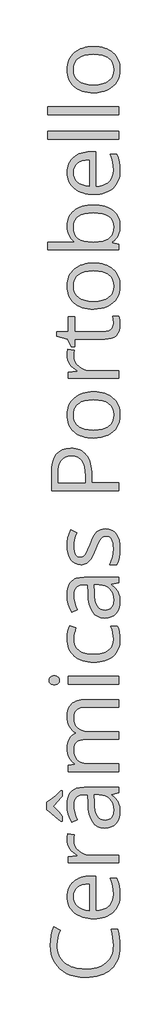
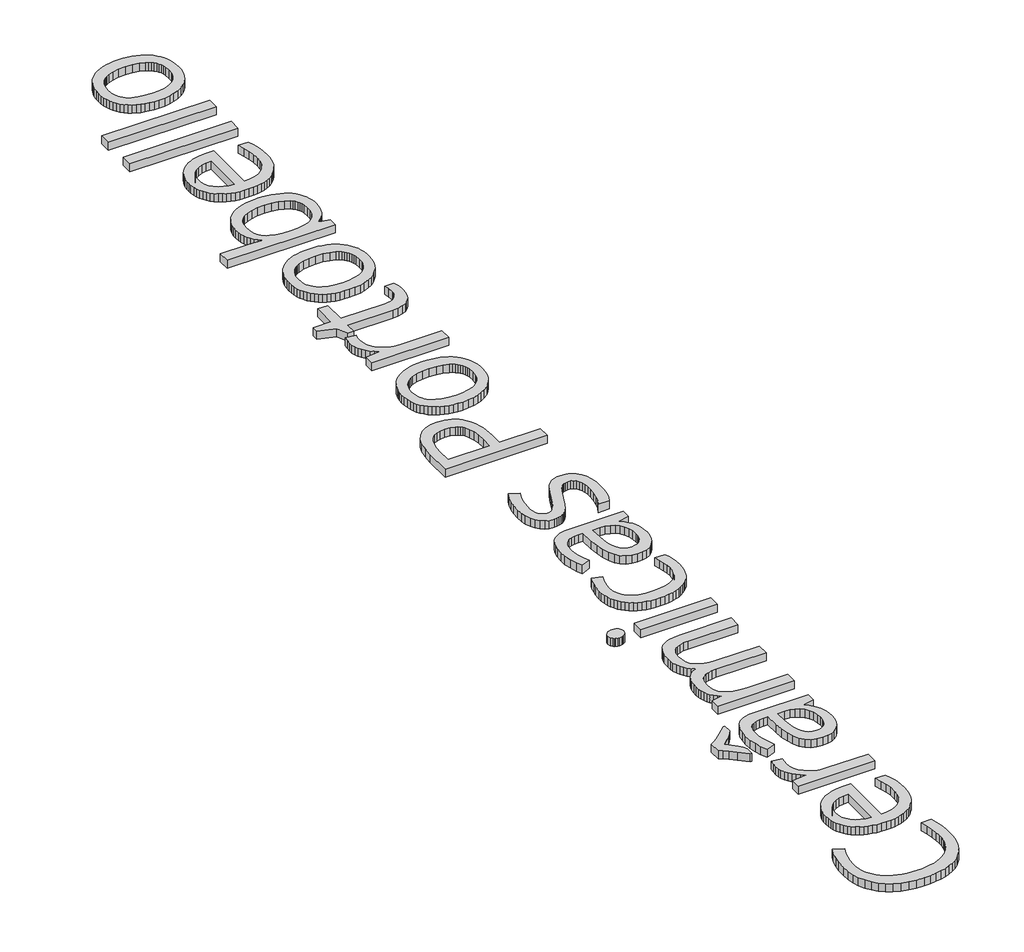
# One storey, part 5 of 9: 1 proxy.
"""IFC4 building model written with IfcOpenShell, lengths in millimetres."""

from ifc_helpers import new_model, si_unit, origin, origin_with_axes, place, context, project, spatial, polyline, outline, extrude, element, save

model = new_model("IFC4")

# Units and contexts
model_context = context("Model", 3, world=origin())
ifc_project = project(units=[si_unit("LENGTHUNIT", "METRE", prefix="MILLI")], contexts=[model_context])

# Site, building, storey
site = spatial("IfcSite", under=ifc_project)
building = spatial("IfcBuilding", under=site)
storey = spatial("IfcBuildingStorey", under=building, Name="PORTOBELLO - SHOWROOM", Elevation=0.0)

# Proxy
placement = place(None, origin())
element("IfcBuildingElementProxy", 1, Name="1200mm OpenSans", ObjectType="1200mm OpenSans", at=placement, inside=storey, context=model_context, shape_type="SweptSolid", body=[
    extrude(outline(polyline([(117527.2490396, -6448.3755491), (117529.3700869, -6496.5596594), (117535.7332288, -6542.1410504), (117546.3384653, -6585.1197219), (117561.1857964, -6625.4956741), (117580.2752221, -6663.2689068), (117603.6067424, -6698.4394202), (117631.1803572, -6731.0072142), (117662.9960667, -6760.9722887), (117698.5017788, -6787.8445215), (117737.1454015, -6811.1337898), (117778.9269348, -6830.8400938), (117823.8463787, -6846.9634334), (117871.9037332, -6859.5038087), (117923.0989983, -6868.4612196), (117977.4321741, -6873.8356661), (118034.9032604, -6875.6271483), (118093.8447143, -6873.9004524), (118149.3440435, -6868.7203648), (118201.4012482, -6860.0868854), (118250.0163283, -6848.0000143), (118295.1892838, -6832.4597514), (118336.9201148, -6813.4660968), (118375.2088212, -6791.0190504), (118410.055403, -6765.1186123), (118441.1105776, -6736.0239276), (118468.0250623, -6703.9941417), (118490.798857, -6669.0292544), (118509.4319617, -6631.1292658), (118523.9243765, -6590.2941759), (118534.2761014, -6546.5239847), (118540.4871363, -6499.8186922), (118542.5574813, -6450.1782984), (118539.7406854, -6385.076512), (118531.2902977, -6315.6030584), (118517.2063183, -6241.7579376), (118497.4887472, -6163.5411496), (118614.3069059, -6163.5411496), (118633.3935148, -6229.5668451), (118647.0268069, -6302.8936754), (118655.2067821, -6383.5216407), (118657.9334405, -6471.4507409), (118655.3955075, -6535.8990307), (118647.7817082, -6596.5615468), (118635.0920428, -6653.4382892), (118617.3265111, -6706.529258), (118594.4851133, -6755.8344531), (118566.5678494, -6801.3538745), (118533.5747192, -6843.0875223), (118495.5057229, -6881.0353964), (118452.7608454, -6914.8369469), (118405.7400717, -6944.1316241), (118354.443402, -6968.9194279), (118298.870836, -6989.2003582), (118239.0223739, -7004.9744151), (118174.8980157, -7016.2415987), (118106.4977613, -7023.0019088), (118033.8216108, -7025.2553455), (117942.9855773, -7020.9174798), (117857.9634104, -7007.9038828), (117778.7551102, -6986.2145546), (117705.3606768, -6955.849495), (117638.9180955, -6917.2931929), (117580.5653521, -6871.0301374), (117530.3024464, -6817.0603283), (117488.1293784, -6755.3837657), (117454.767248, -6686.9581602), (117430.9371549, -6612.7412223), (117416.639099, -6532.7329521), (117411.8730803, -6446.9333496), (117415.8616633, -6355.4438194), (117427.8274122, -6269.9033621), (117447.770327, -6190.3119777), (117475.6904078, -6116.6696662), (117591.426917, -6175.7998453), (117563.3490956, -6243.9437712), (117543.293509, -6312.0876972), (117531.260157, -6380.2316231), (117527.2490396, -6448.3755491)])), origin_with_axes(), (0.0, 0.0, 1.0), 100.0),
    extrude(outline(polyline([(118657.9334405, -5540.5109695), (118656.0067522, -5589.1345), (118650.226687, -5635.1327767), (118640.5932451, -5678.5057997), (118627.1064264, -5719.2535689), (118609.766231, -5757.3760844), (118588.5726588, -5792.8733461), (118563.5257098, -5825.745354), (118534.6253841, -5855.9921082), (118502.3054681, -5883.1178525), (118466.9997486, -5906.6268309), (118428.7082254, -5926.5190434), (118387.4308985, -5942.79449), (118343.167768, -5955.4531707), (118295.9188339, -5964.4950855), (118245.6840962, -5969.9202344), (118192.4635548, -5971.7286173), (118138.7162726, -5970.049807), (118087.8026871, -5965.0133759), (118039.7227982, -5956.6193242), (117994.476606, -5944.8676518), (117952.0641104, -5929.7583587), (117912.4853115, -5911.2914449), (117875.7402092, -5889.4669104), (117841.8288036, -5864.2847552), (117811.3651561, -5836.274537), (117784.9633283, -5805.9658133), (117762.6233202, -5773.3585842), (117744.3451317, -5738.4528496), (117730.1287629, -5701.2486096), (117719.9742138, -5661.7458642), (117713.8814843, -5619.9446133), (117711.8505745, -5575.844857), (117713.6476902, -5534.4999271), (117719.0390376, -5495.3746323), (117728.0246164, -5458.4689727), (117740.6044268, -5423.7829482), (117756.7784688, -5391.3165589), (117776.5467423, -5361.0698047), (117799.9092473, -5333.0426857), (117826.8659839, -5307.2352018), (117856.7690889, -5284.0811397), (117888.9706995, -5264.0142858), (117923.4708154, -5247.0346403), (117960.2694368, -5233.142203), (117999.3665636, -5222.336974), (118040.7621959, -5214.6189533), (118084.4563336, -5209.9881408), (118130.4489767, -5208.4445367), (118219.5047953, -5208.4445367), (118219.5047953, -5830.0325173), (118294.0484815, -5823.5313524), (118359.037596, -5807.9939063), (118414.472139, -5783.4201791), (118438.6064461, -5767.74471), (118460.3521103, -5749.8101706), (118479.6189941, -5729.7799351), (118496.3169601, -5707.8173776), (118522.0061385, -5658.0952968), (118537.4196456, -5600.643928), (118542.5574813, -5535.4632713), (118538.7491732, -5462.8350063), (118527.3242491, -5390.6123599), (118508.282709, -5318.7953321), (118481.6245528, -5247.383923), (118601.3271105, -5247.383923), (118627.3317701, -5317.8714231), (118644.7733702, -5384.3928746), (118654.643423, -5455.6916119), (118657.9334405, -5540.5109695)]), holes=[polyline([(117827.2265337, -5577.2870565), (117831.8235446, -5628.8118868), (117845.6145773, -5674.8608658), (117868.5996316, -5715.4339937), (117900.7787078, -5750.5312704), (117941.0701561, -5779.5668023), (117988.3923269, -5801.954696), (118042.7452202, -5817.6949514), (118104.128836, -5826.7875685), (118104.128836, -5354.827785), (118040.9875395, -5358.4332838), (117985.6882028, -5369.24978), (117938.2308258, -5387.2772736), (117898.6154085, -5412.5157647), (117867.3827758, -5444.4469628), (117845.0737524, -5482.5525775), (117831.6883384, -5526.8326087), (117827.2265337, -5577.2870565)])]), origin_with_axes(), (0.0, 0.0, 1.0), 100.0),
    extrude(outline(polyline([(117711.8505745, -4561.2575151), (117714.1040112, -4503.7498104), (117720.8643213, -4452.3714536), (117839.4852294, -4471.4805968), (117830.2912077, -4524.661703), (117827.2265337, -4570.9923617), (117832.8713927, -4624.3199413), (117849.8059695, -4673.6138692), (117878.0302642, -4718.8741454), (117917.5442769, -4760.1007699), (117965.4861428, -4794.4093438), (118018.9939973, -4818.9154679), (118078.0678405, -4833.6191424), (118142.7076724, -4838.5203673), (118634.8582487, -4838.5203673), (118634.8582487, -4974.8082192), (117734.9257663, -4974.8082192), (117734.9257663, -4862.3166589), (117896.4521093, -4846.8130143), (117896.4521093, -4840.3231166), (117854.6508584, -4813.6198917), (117817.9423745, -4784.3477489), (117786.3266576, -4752.5066883), (117759.8037075, -4718.0967098), (117738.8242118, -4681.5234321), (117723.8388577, -4643.1924737), (117714.8476453, -4603.1038347), (117711.8505745, -4561.2575151)])), origin_with_axes(), (0.0, 0.0, 1.0), 100.0),
    extrude(outline(polyline([(118634.8582487, -3721.8974114), (118503.2575451, -3749.2992017), (118503.2575451, -3756.1496493), (118544.8559867, -3790.1878107), (118579.1532934, -3824.158369), (118606.1494651, -3858.0613243), (118625.8445019, -3891.8966764), (118639.8834125, -3927.8051903), (118649.9112059, -3967.9276308), (118655.9278819, -4012.263998), (118657.9334405, -4060.8142918), (118653.4603687, -4124.924566), (118640.0411531, -4181.6886366), (118617.6757938, -4231.1065035), (118586.3642908, -4273.1781668), (118546.8052095, -4306.7769081), (118499.6971151, -4330.776009), (118445.0400079, -4345.1754695), (118382.8338876, -4349.9752897), (118316.2842682, -4343.0685062), (118258.1512348, -4322.3481557), (118208.4347875, -4287.8142382), (118167.1349263, -4239.4667537), (118134.2516512, -4177.3057022), (118109.7849621, -4101.3310837), (118093.7348592, -4011.5428982), (118086.1013424, -3907.9411457), (118081.0536442, -3753.2652503), (118026.9711632, -3753.2652503), (117979.2771754, -3756.1496493), (117938.2308258, -3764.8028462), (117903.8321145, -3779.2248411), (117876.0810415, -3799.415634), (117854.7071944, -3825.9611184), (117839.4401607, -3859.4471878), (117830.2799405, -3899.8738423), (117827.2265337, -3947.2410818), (117831.5531322, -4006.2360548), (117844.5329276, -4068.9266639), (117866.16592, -4135.3129092), (117896.4521093, -4205.3947907), (117791.1715465, -4247.9396757), (117758.0460269, -4177.3620381), (117732.942742, -4100.4747778), (117717.1236164, -4020.2524311), (117711.8505745, -3939.6695345), (117716.3574479, -3863.4695723), (117729.8780681, -3797.8382283), (117752.4124351, -3742.7755024), (117767.0597737, -3719.2073713), (117783.960549, -3698.2813947), (117803.3457383, -3679.9018016), (117825.4463187, -3663.9728209), (117850.2622905, -3650.4944526), (117877.7936534, -3639.4666967), (117941.002553, -3624.7630222), (118015.0730174, -3619.8617974), (118634.8582487, -3619.8617974), (118634.8582487, -3721.8974114)]), holes=[polyline([(118542.5574813, -4033.7730513), (118538.1970812, -3972.5246417), (118525.1158812, -3918.2168171), (118503.3138811, -3870.8495776), (118472.7910809, -3830.4229231), (118434.426321, -3798.0861064), (118389.0984417, -3774.9883801), (118336.807443, -3761.1297444), (118277.5533248, -3756.5101992), (118196.4296034, -3756.5101992), (118202.1984014, -3895.3219002), (118207.516512, -3972.1415574), (118217.7020459, -4037.4686875), (118232.7550031, -4091.3032904), (118252.6753836, -4133.6453661), (118278.116684, -4165.6667016), (118309.7324009, -4188.5390842), (118347.5225345, -4202.2625137), (118391.4870846, -4206.8369902), (118426.2350786, -4203.9863928), (118456.5663366, -4195.4346005), (118482.4808587, -4181.1816133), (118503.9786449, -4161.2274313), (118520.8568858, -4136.157948), (118532.9127722, -4106.5590569), (118540.146304, -4072.430758), (118542.5574813, -4033.7730513)])]), origin_with_axes(), (0.0, 0.0, 1.0), 100.0),
    extrude(outline(polyline([(117600.0801139, -4231.7149314), (117500.568349, -4143.3802126), (117431.3427735, -4086.0527828), (117382.1277158, -4049.9977956), (117342.6475048, -4025.4804042), (117342.6475048, -3889.5531022), (117383.2093655, -3864.9005047), (117434.2271725, -3826.9976993), (117503.8132979, -3768.0027264), (117600.0801139, -3680.0736261), (117619.549807, -3680.0736261), (117619.549807, -3777.4220918), (117591.8325356, -3815.7755845), (117555.9127545, -3858.7260881), (117459.4656635, -3958.4181279), (117557.1746791, -4058.9214049), (117592.778979, -4100.9930682), (117619.549807, -4137.6114147), (117619.549807, -4231.7149314), (117600.0801139, -4231.7149314)])), origin_with_axes(), (0.0, 0.0, 1.0), 100.0),
    extrude(outline(polyline([(118634.8582487, -2186.3155034), (118044.2775571, -2186.3155034), (117993.4062235, -2189.1999023), (117949.3177344, -2197.8530993), (117912.0120898, -2212.2750942), (117881.4892896, -2232.4658871), (117857.7493339, -2258.740959), (117840.7922227, -2291.4157913), (117830.617956, -2330.4903837), (117827.2265337, -2375.9647364), (117831.8348118, -2435.613206), (117845.659646, -2486.9239598), (117868.7010363, -2529.8969977), (117900.9589827, -2564.5323199), (117942.7940351, -2591.1904761), (117994.5667434, -2610.2320162), (118056.2771076, -2621.6569403), (118127.9251276, -2625.4652484), (118634.8582487, -2625.4652484), (118634.8582487, -2762.1136501), (118044.2775571, -2762.1136501), (117993.4062235, -2764.9980491), (117949.3177344, -2773.6512461), (117912.0120898, -2788.073241), (117881.4892896, -2808.2640338), (117857.7493339, -2834.5841745), (117840.7922227, -2867.394213), (117830.617956, -2906.6941491), (117827.2265337, -2952.4839829), (117832.0714227, -3012.5380711), (117846.6060894, -3063.9840311), (117870.830534, -3106.8218628), (117886.576423, -3125.0127306), (117904.7447564, -3141.0515664), (117949.6782843, -3167.2365009), (118006.9606453, -3185.9400255), (118076.5918395, -3197.1621403), (118158.5718668, -3200.9028453), (118634.8582487, -3200.9028453), (118634.8582487, -3337.1906972), (117734.9257663, -3337.1906972), (117734.9257663, -3226.1413364), (117850.3017256, -3204.1477941), (117850.3017256, -3197.6578964), (117819.4634443, -3176.2164462), (117792.2081274, -3150.8314817), (117768.5357748, -3121.503003), (117748.4463865, -3088.23101), (117732.4357188, -3051.9394119), (117720.9995275, -3013.5521176), (117714.1378127, -2973.0691272), (117711.8505745, -2930.4904407), (117714.216683, -2879.8669851), (117721.3150086, -2833.8180061), (117733.1455513, -2792.3435035), (117749.7083111, -2755.4434775), (117771.003288, -2723.117928), (117797.0304819, -2695.3668549), (117827.7898929, -2672.1902584), (117863.281521, -2653.5881384), (117863.281521, -2647.0982407), (117830.1334671, -2624.642744), (117800.6359806, -2597.6578394), (117774.7890616, -2566.1435271), (117752.5927101, -2530.099807), (117734.7680258, -2490.4505882), (117722.0361084, -2448.1197797), (117714.3969579, -2403.1073815), (117711.8505745, -2355.4133937), (117716.7856008, -2283.6076331), (117731.59068, -2221.4240472), (117742.6944894, -2193.9405698), (117756.2658119, -2168.8626361), (117772.3046477, -2146.190246), (117790.8109966, -2125.9233997), (117812.0327368, -2108.0508298), (117836.2177462, -2092.5612693), (117863.3660249, -2079.454718), (117893.4775729, -2068.7311761), (117962.5904766, -2054.4331202), (118043.5564574, -2049.6671016), (118634.8582487, -2049.6671016), (118634.8582487, -2186.3155034)])), origin_with_axes(), (0.0, 0.0, 1.0), 100.0),
    extrude(outline(polyline([(118634.8582487, -1635.7558477), (118634.8582487, -1772.0436996), (117734.9257663, -1772.0436996), (117734.9257663, -1635.7558477), (118634.8582487, -1635.7558477)])), origin_with_axes(), (0.0, 0.0, 1.0), 100.0),
    extrude(outline(polyline([(117480.738106, -1783.5812955), (117458.5304873, -1782.139096), (117439.5002143, -1777.8124975), (117423.6472871, -1770.6015001), (117410.9717057, -1760.5061036), (117394.3413428, -1734.5465128), (117388.7978885, -1702.818124), (117394.4314802, -1672.2615223), (117411.3322555, -1646.211794), (117424.1205088, -1635.8009164), (117439.9509017, -1628.3645753), (117458.8234341, -1623.9027706), (117480.738106, -1622.4155024), (117502.6753124, -1623.9027706), (117521.6154479, -1628.3645753), (117537.5585125, -1635.8009164), (117550.5045064, -1646.211794), (117567.6756941, -1672.2615223), (117573.3994233, -1702.818124), (117567.6756941, -1734.5465128), (117560.5210326, -1748.247408), (117550.5045064, -1760.5061036), (117537.5585125, -1770.6015001), (117521.6154479, -1777.8124975), (117502.6753124, -1782.139096), (117480.738106, -1783.5812955)])), origin_with_axes(), (0.0, 0.0, 1.0), 100.0),
    extrude(outline(polyline([(118657.9334405, -965.8541841), (118656.0264697, -1013.767882), (118650.3055573, -1058.8985856), (118640.7707032, -1101.2462949), (118627.4219076, -1140.8110099), (118610.2591703, -1177.5927305), (118589.2824913, -1211.5914568), (118564.4918708, -1242.8071887), (118535.8873086, -1271.2399263), (118503.7955532, -1296.5910893), (118468.5433527, -1318.5620971), (118430.1307073, -1337.1529499), (118388.5576169, -1352.3636477), (118343.8240815, -1364.1941904), (118295.9301011, -1372.644578), (118244.8756758, -1377.7148106), (118190.6608055, -1379.4048881), (118135.0488044, -1377.6894595), (118082.6873858, -1372.5431734), (118033.5765496, -1363.9660299), (117987.7162958, -1351.9580291), (117945.1066246, -1336.5191709), (117905.7475357, -1317.6494553), (117869.6390293, -1295.3488823), (117836.7811054, -1269.6174519), (117807.5005122, -1240.7143094), (117782.1239981, -1208.8985999), (117760.6515631, -1174.1703235), (117743.0832072, -1136.5294801), (117729.4189304, -1095.9760698), (117719.6587326, -1052.5100926), (117713.802614, -1006.1315484), (117711.8505745, -956.8404373), (117715.1856608, -891.2654292), (117725.1909198, -825.7805585), (117739.7030521, -767.4165479), (117756.5587587, -723.2041198), (117869.4108689, -765.3884549), (117852.8706434, -813.2063817), (117839.3049545, -865.0804947), (117830.2461389, -915.872958), (117827.2265337, -960.445936), (117832.8657591, -1025.429417), (117849.7834352, -1081.7484338), (117877.9795619, -1129.4029865), (117917.4541394, -1168.3930751), (117968.2071676, -1198.7186996), (118030.2386465, -1220.3798599), (118103.5485761, -1233.3765561), (118188.1369564, -1237.7087882), (118268.787456, -1233.4835943), (118339.4777654, -1220.8080129), (118400.2078846, -1199.6820438), (118450.9778136, -1170.105687), (118472.4417982, -1152.1880484), (118491.0439182, -1132.2366832), (118506.7841736, -1110.2515913), (118519.6625644, -1086.2327729), (118529.6790905, -1060.1802278), (118536.833752, -1032.093956), (118542.5574813, -969.8202327), (118539.5153417, -912.5153373), (118530.3889231, -854.5344109), (118515.1782253, -795.8774535), (118493.8832484, -736.544465), (118612.5041566, -736.544465), (118632.3794683, -785.0834917), (118646.5761196, -839.4814537), (118655.0941103, -899.7383512), (118657.9334405, -965.8541841)])), origin_with_axes(), (0.0, 0.0, 1.0), 100.0),
    extrude(outline(polyline([(118634.8582487, 39.3588611), (118503.2575451, 11.9570708), (118503.2575451, 5.1066232), (118544.8559867, -28.9315382), (118579.1532934, -62.9020966), (118606.1494651, -96.8050518), (118625.8445019, -130.6404039), (118639.8834125, -166.5489178), (118649.9112059, -206.6713583), (118655.9278819, -251.0077255), (118657.9334405, -299.5580193), (118653.4603687, -363.6682935), (118640.0411531, -420.4323641), (118617.6757938, -469.850231), (118586.3642908, -511.9218943), (118546.8052095, -545.5206356), (118499.6971151, -569.5197365), (118445.0400079, -583.919197), (118382.8338876, -588.7190172), (118316.2842682, -581.8122337), (118258.1512348, -561.0918832), (118208.4347875, -526.5579657), (118167.1349263, -478.2104812), (118134.2516512, -416.0494297), (118109.7849621, -340.0748112), (118093.7348592, -250.2866257), (118086.1013424, -146.6848732), (118081.0536442, 7.9910222), (118026.9711632, 7.9910222), (117979.2771754, 5.1066232), (117938.2308258, -3.5465738), (117903.8321145, -17.9685687), (117876.0810415, -38.1593615), (117854.7071944, -64.7048459), (117839.4401607, -98.1909153), (117830.2799405, -138.6175698), (117827.2265337, -185.9848094), (117831.5531322, -244.9797823), (117844.5329276, -307.6703914), (117866.16592, -374.0566367), (117896.4521093, -444.1385182), (117791.1715465, -486.6834032), (117758.0460269, -416.1057656), (117732.942742, -339.2185053), (117717.1236164, -258.9961586), (117711.8505745, -178.413262), (117716.3574479, -102.2132999), (117729.8780681, -36.5819558), (117752.4124351, 18.48077), (117767.0597737, 42.0489012), (117783.960549, 62.9748778), (117803.3457383, 81.3544709), (117825.4463187, 97.2834516), (117850.2622905, 110.7618199), (117877.7936534, 121.7895758), (117941.002553, 136.4932503), (118015.0730174, 141.3944751), (118634.8582487, 141.3944751), (118634.8582487, 39.3588611)]), holes=[polyline([(118542.5574813, -272.5167788), (118538.1970812, -211.2683692), (118525.1158812, -156.9605446), (118503.3138811, -109.5933051), (118472.7910809, -69.1666506), (118434.426321, -36.8298339), (118389.0984417, -13.7321077), (118336.807443, 0.1265281), (118277.5533248, 4.7460733), (118196.4296034, 4.7460733), (118202.1984014, -134.0656277), (118207.516512, -210.8852849), (118217.7020459, -276.212415), (118232.7550031, -330.0470179), (118252.6753836, -372.3890936), (118278.116684, -404.4104291), (118309.7324009, -427.2828117), (118347.5225345, -441.0062412), (118391.4870846, -445.5807177), (118426.2350786, -442.7301203), (118456.5663366, -434.178328), (118482.4808587, -419.9253409), (118503.9786449, -399.9711588), (118520.8568858, -374.9016755), (118532.9127722, -345.3027844), (118540.146304, -311.1744855), (118542.5574813, -272.5167788)])]), origin_with_axes(), (0.0, 0.0, 1.0), 100.0),
    extrude(outline(polyline([(118392.2081843, 1008.8774689), (118452.3636772, 1002.9847319), (118479.6950476, 995.6188107), (118505.1955007, 985.306521), (118528.8650365, 972.0478628), (118550.703655, 955.8428361), (118570.7113561, 936.6914409), (118588.8881399, 914.5936772), (118619.0954589, 862.7082971), (118640.6721154, 801.3359484), (118653.6181093, 730.4766312), (118657.9334405, 650.1303455), (118654.3730106, 565.1081787), (118643.6917206, 489.9560646), (118625.8895706, 424.6740032), (118600.9665607, 369.2619947), (118473.3319057, 369.2619947), (118502.0406893, 436.9552333), (118523.9891628, 509.5158952), (118537.9154017, 583.0680692), (118542.5574813, 653.7358443), (118540.4167164, 704.5170404), (118533.9944218, 749.0562169), (118523.2905974, 787.3533737), (118508.3052434, 819.4085108), (118488.9256877, 844.7258722), (118465.0392586, 862.8097017), (118436.6459562, 873.6599995), (118403.7457803, 877.2767654), (118378.0340675, 874.4036336), (118354.2603102, 865.7842382), (118332.4245086, 851.4185792), (118312.5266625, 831.3066566), (118292.7414882, 802.8795526), (118271.243702, 763.5683492), (118223.110294, 652.2936448), (118178.5823847, 544.0385455), (118140.1838233, 472.3792583), (118102.4612928, 425.823256), (118081.8085455, 407.6492889), (118059.9614766, 392.8780113), (118036.4017959, 381.4418201), (118010.6112128, 373.273112), (117982.5897273, 368.3718872), (117952.3373396, 366.7381456), (117899.561852, 372.3717373), (117852.6452998, 389.2725126), (117811.587683, 417.4404714), (117776.3890017, 456.8756137), (117748.1534398, 506.1357401), (117727.9851813, 563.778651), (117715.8842262, 629.8043465), (117711.8505745, 704.2128264), (117715.5912794, 776.8410914), (117726.8133942, 848.7031879), (117745.5169188, 919.799116), (117771.7018533, 990.1288755), (117883.111764, 941.0940928), (117858.6619758, 874.3923664), (117841.1978413, 810.9355888), (117830.7193606, 750.72376), (117827.2265337, 693.7568801), (117829.1532221, 647.8994432), (117834.9332873, 608.0361479), (117844.5667292, 574.1669942), (117858.0535479, 546.2919822), (117874.943056, 524.5237836), (117894.7845661, 508.9750704), (117917.5780784, 499.6458424), (117943.3235928, 496.5360997), (117977.350487, 501.1781794), (118005.8789957, 515.1044182), (118031.0273493, 539.3964659), (118054.9137784, 575.135972), (118083.4422871, 635.6182132), (118122.5168795, 734.1384659), (118152.1270378, 808.1976632), (118181.8273336, 869.209462), (118211.6177668, 917.1738622), (118241.4983375, 952.090864), (118273.3619325, 976.9350036), (118309.1014387, 994.6808177), (118348.7168559, 1005.3283061), (118392.2081843, 1008.8774689)])), origin_with_axes(), (0.0, 0.0, 1.0), 100.0),
    extrude(outline(polyline([(117778.5523009, 2453.9613589), (117821.9732094, 2452.0121361), (117862.8195665, 2446.1644679), (117901.0913721, 2436.4183541), (117936.7886263, 2422.7737949), (117969.9113291, 2405.2307901), (118000.4594804, 2383.7893399), (118028.4330803, 2358.4494442), (118053.8321288, 2329.2111029), (118076.4369157, 2296.339095), (118096.0277311, 2260.0981992), (118112.6045748, 2220.4884155), (118126.167447, 2177.509744), (118136.7163476, 2131.1621845), (118144.2512765, 2081.4457372), (118148.7722339, 2028.3604021), (118150.2792197, 1971.906179), (118150.2792197, 1830.210079), (118634.8582487, 1830.210079), (118634.8582487, 1690.6772783), (117434.9482722, 1690.6772783), (117434.9482722, 2002.9134681), (117440.3170851, 2108.6278175), (117456.423524, 2200.2469203), (117483.2675887, 2277.7707765), (117520.8492794, 2341.1993862), (117569.1685959, 2390.5327492), (117628.2255384, 2425.7708657), (117698.0201067, 2446.9137356), (117778.5523009, 2453.9613589)]), holes=[polyline([(118034.9032604, 1830.210079), (118034.9032604, 1956.4025345), (118031.1850899, 2043.1598476), (118020.0305782, 2117.0275028), (118001.4397254, 2178.0055), (117975.4125314, 2226.0938393), (117959.4131308, 2245.6142348), (117941.1602935, 2262.5319108), (117920.6540195, 2276.8468675), (117897.8943088, 2288.5591048), (117845.6145773, 2304.1754211), (117784.3210989, 2309.3808599), (117728.9654262, 2304.4796351), (117681.1587665, 2289.7759606), (117640.9011198, 2265.2698364), (117608.1924861, 2230.9612626), (117582.8751247, 2186.3094143), (117564.7912951, 2130.7734667), (117553.9409974, 2064.3534198), (117550.3242315, 1987.0492737), (117550.3242315, 1830.210079), (118034.9032604, 1830.210079)])]), origin_with_axes(), (0.0, 0.0, 1.0), 100.0),
    extrude(outline(polyline([(118184.1709078, 3461.3377033), (118238.4364804, 3459.6053739), (118289.6430127, 3454.4083855), (118337.7905047, 3445.7467381), (118382.8789564, 3433.6204319), (118424.9083677, 3418.0294667), (118463.8787387, 3398.9738425), (118499.7900694, 3376.4535595), (118532.6423598, 3350.4686175), (118562.0074568, 3321.4359023), (118587.4572076, 3289.7722998), (118608.9916121, 3255.47781), (118626.6106704, 3218.5524328), (118640.3143823, 3178.9961682), (118650.102748, 3136.8090163), (118655.9757674, 3091.990977), (118657.9334405, 3044.5420504), (118654.339209, 2985.8512915), (118643.5565144, 2930.5632219), (118625.5853567, 2878.6778418), (118600.4257358, 2830.1951511), (118568.5508737, 2786.0841276), (118530.4339918, 2747.3137491), (118486.0750903, 2713.8840156), (118435.4741691, 2685.7949271), (118379.476267, 2663.5535068), (118318.9264227, 2647.666778), (118253.8246363, 2638.1347408), (118184.1709078, 2634.957395), (118129.9166023, 2636.6756405), (118078.7438715, 2641.8303769), (118030.6527155, 2650.4216044), (117985.6431341, 2662.4493228), (117943.7151274, 2677.9135322), (117904.8686954, 2696.8142325), (117869.1038381, 2719.1514239), (117836.4205555, 2744.9251062), (117807.2244662, 2773.7521952), (117781.9211888, 2805.2496068), (117760.5107233, 2839.4173408), (117742.9930697, 2876.2553973), (117729.368228, 2915.7637764), (117719.6361983, 2957.9424779), (117713.7969804, 3002.7915019), (117711.8505745, 3050.3108484), (117713.8420492, 3096.2443388), (117719.8164732, 3139.7610184), (117729.7738467, 3180.8608871), (117743.7141695, 3219.5439449), (117761.6374417, 3255.8101919), (117783.5436632, 3289.659628), (117809.4328342, 3321.0922532), (117839.3049545, 3350.1080676), (117872.5741306, 3376.1775135), (117908.6544691, 3398.7710332), (117947.5459698, 3417.8886269), (117989.2486328, 3433.5302944), (118033.7624581, 3445.6960358), (118081.0874457, 3454.3858511), (118131.2235956, 3459.5997403), (118184.1709078, 3461.3377033)]), holes=[polyline([(118183.0892581, 2776.653495), (118265.655179, 2780.9575591), (118337.7651536, 2793.8697514), (118399.4191818, 2815.3900719), (118426.325216, 2829.3782803), (118450.6172637, 2845.5185207), (118472.1657522, 2863.74319), (118490.8411089, 2883.9846852), (118506.6433338, 2906.2430063), (118519.5724269, 2930.5181532), (118529.6283882, 2956.8101259), (118536.8112177, 2985.1189245), (118542.5574813, 3047.7869993), (118536.833752, 3110.4776084), (118529.6790905, 3138.814575), (118519.6625644, 3165.1459829), (118506.7841736, 3189.4718321), (118491.0439182, 3211.7921227), (118472.4417982, 3232.1068545), (118450.9778136, 3250.4160278), (118426.7590026, 3266.640772), (118399.8924035, 3280.7022171), (118338.2158409, 3302.3352095), (118265.9481258, 3315.3150049), (118183.0892581, 3319.6416033), (118101.0754293, 3315.3150049), (118029.5400811, 3302.3352095), (117968.4832136, 3280.7022171), (117941.8842101, 3266.640772), (117917.9048267, 3250.4160278), (117896.6521018, 3232.0786866), (117878.2330736, 3211.6794508), (117862.6477419, 3189.2183205), (117849.896107, 3164.6952955), (117839.9781687, 3138.110376), (117832.8939271, 3109.4635619), (117827.2265337, 3045.9842499), (117832.8150568, 2983.3725111), (117839.8007106, 2955.1341324), (117849.5806259, 2928.9407475), (117862.1548027, 2904.7923564), (117877.523241, 2882.6889591), (117895.6859408, 2862.6305557), (117916.6429022, 2844.617146), (117940.3659571, 2828.6881653), (117966.8269376, 2814.8830487), (118027.9626754, 2793.6444077), (118100.0501156, 2780.9012232), (118183.0892581, 2776.653495)])]), origin_with_axes(), (0.0, 0.0, 1.0), 100.0),
    extrude(outline(polyline([(117711.8505745, 4115.0146226), (117714.1040112, 4172.5223273), (117720.8643213, 4223.9006842), (117839.4852294, 4204.7915409), (117830.2912077, 4151.6104347), (117827.2265337, 4105.2797761), (117832.8713927, 4051.9521964), (117849.8059695, 4002.6582685), (117878.0302642, 3957.3979923), (117917.5442769, 3916.1713678), (117965.4861428, 3881.862794), (118018.9939973, 3857.3566698), (118078.0678405, 3842.6529953), (118142.7076724, 3837.7517705), (118634.8582487, 3837.7517705), (118634.8582487, 3701.4639186), (117734.9257663, 3701.4639186), (117734.9257663, 3813.9554789), (117896.4521093, 3829.4591234), (117896.4521093, 3835.9490211), (117854.6508584, 3862.6522461), (117817.9423745, 3891.9243889), (117786.3266576, 3923.7654495), (117759.8037075, 3958.175428), (117738.8242118, 3994.7487057), (117723.8388577, 4033.079664), (117714.8476453, 4073.168303), (117711.8505745, 4115.0146226)])), origin_with_axes(), (0.0, 0.0, 1.0), 100.0),
    extrude(outline(polyline([(118542.5574813, 4687.5678205), (118537.1492332, 4758.2355956), (118525.9721871, 4812.3180765), (118632.6949495, 4812.3180765), (118642.610071, 4784.6458738), (118650.7224431, 4746.3374498), (118656.1306912, 4704.9643519), (118657.9334405, 4668.0981274), (118653.6519108, 4606.2412899), (118640.8073216, 4552.6320307), (118619.3996729, 4507.2703498), (118589.4289647, 4470.1562473), (118550.8951971, 4441.2897231), (118503.7983699, 4420.6707772), (118448.1384833, 4408.2994097), (118383.9155373, 4404.1756206), (117850.3017256, 4404.1756206), (117850.3017256, 4273.6565666), (117782.8788994, 4273.6565666), (117724.46982, 4403.4545208), (117527.2490396, 4461.5030503), (117527.2490396, 4540.8240223), (117734.9257663, 4540.8240223), (117734.9257663, 4805.8281788), (117850.3017256, 4805.8281788), (117850.3017256, 4540.8240223), (118375.6228902, 4540.8240223), (118413.6496346, 4543.2690012), (118446.9666963, 4550.6039376), (118475.5740752, 4562.8288318), (118499.4717715, 4579.9436835), (118518.3217695, 4601.340065), (118531.7860538, 4626.4095484), (118539.8646244, 4655.1521335), (118542.5574813, 4687.5678205)])), origin_with_axes(), (0.0, 0.0, 1.0), 100.0),
    extrude(outline(polyline([(118184.1709078, 5768.8568889), (118238.4364804, 5767.1245594), (118289.6430127, 5761.927571), (118337.7905047, 5753.2659237), (118382.8789564, 5741.1396174), (118424.9083677, 5725.5486522), (118463.8787387, 5706.4930281), (118499.7900694, 5683.972745), (118532.6423598, 5657.987803), (118562.0074568, 5628.9550879), (118587.4572076, 5597.2914854), (118608.9916121, 5562.9969955), (118626.6106704, 5526.0716183), (118640.3143823, 5486.5153538), (118650.102748, 5444.3282019), (118655.9757674, 5399.5101626), (118657.9334405, 5352.061236), (118654.339209, 5293.370477), (118643.5565144, 5238.0824075), (118625.5853567, 5186.1970274), (118600.4257358, 5137.7143367), (118568.5508737, 5093.6033132), (118530.4339918, 5054.8329347), (118486.0750903, 5021.4032011), (118435.4741691, 4993.3141126), (118379.476267, 4971.0726924), (118318.9264227, 4955.1859636), (118253.8246363, 4945.6539263), (118184.1709078, 4942.4765806), (118129.9166023, 4944.1948261), (118078.7438715, 4949.3495625), (118030.6527155, 4957.94079), (117985.6431341, 4969.9685084), (117943.7151274, 4985.4327178), (117904.8686954, 5004.3334181), (117869.1038381, 5026.6706094), (117836.4205555, 5052.4442918), (117807.2244662, 5081.2713808), (117781.9211888, 5112.7687923), (117760.5107233, 5146.9365264), (117742.9930697, 5183.7745829), (117729.368228, 5223.2829619), (117719.6361983, 5265.4616634), (117713.7969804, 5310.3106875), (117711.8505745, 5357.830034), (117713.8420492, 5403.7635244), (117719.8164732, 5447.280204), (117729.7738467, 5488.3800727), (117743.7141695, 5527.0631305), (117761.6374417, 5563.3293775), (117783.5436632, 5597.1788136), (117809.4328342, 5628.6114388), (117839.3049545, 5657.6272532), (117872.5741306, 5683.696699), (117908.6544691, 5706.2902188), (117947.5459698, 5725.4078124), (117989.2486328, 5741.04948), (118033.7624581, 5753.2152214), (118081.0874457, 5761.9050367), (118131.2235956, 5767.1189258), (118184.1709078, 5768.8568889)]), holes=[polyline([(118183.0892581, 5084.1726806), (118265.655179, 5088.4767447), (118337.7651536, 5101.388937), (118399.4191818, 5122.9092575), (118426.325216, 5136.8974659), (118450.6172637, 5153.0377063), (118472.1657522, 5171.2623756), (118490.8411089, 5191.5038708), (118506.6433338, 5213.7621919), (118519.5724269, 5238.0373388), (118529.6283882, 5264.3293115), (118536.8112177, 5292.6381101), (118542.5574813, 5355.3061849), (118536.833752, 5417.996794), (118529.6790905, 5446.3337605), (118519.6625644, 5472.6651684), (118506.7841736, 5496.9910177), (118491.0439182, 5519.3113082), (118472.4417982, 5539.6260401), (118450.9778136, 5557.9352133), (118426.7590026, 5574.1599576), (118399.8924035, 5588.2214027), (118338.2158409, 5609.854395), (118265.9481258, 5622.8341904), (118183.0892581, 5627.1607889), (118101.0754293, 5622.8341904), (118029.5400811, 5609.854395), (117968.4832136, 5588.2214027), (117941.8842101, 5574.1599576), (117917.9048267, 5557.9352133), (117896.6521018, 5539.5978722), (117878.2330736, 5519.1986364), (117862.6477419, 5496.737506), (117849.896107, 5472.2144811), (117839.9781687, 5445.6295616), (117832.8939271, 5416.9827475), (117827.2265337, 5353.5034355), (117832.8150568, 5290.8916967), (117839.8007106, 5262.653318), (117849.5806259, 5236.4599331), (117862.1548027, 5212.311542), (117877.523241, 5190.2081447), (117895.6859408, 5170.1497412), (117916.6429022, 5152.1363316), (117940.3659571, 5136.2073509), (117966.8269376, 5122.4022343), (118027.9626754, 5101.1635933), (118100.0501156, 5088.4204087), (118183.0892581, 5084.1726806)])]), origin_with_axes(), (0.0, 0.0, 1.0), 100.0),
    extrude(outline(polyline([(117711.8505745, 6430.1053555), (117713.7744461, 6473.650203), (117719.5460608, 6514.6881022), (117729.1654187, 6553.2190531), (117742.6325198, 6589.2430556), (117759.9473641, 6622.7601098), (117781.1099516, 6653.7702156), (117806.1202822, 6682.2733732), (117834.978356, 6708.2695823), (117867.3517911, 6731.4658964), (117902.9082055, 6751.5693686), (117941.6475992, 6768.5799989), (117983.5699723, 6782.4977874), (118028.6753248, 6793.322734), (118076.9636565, 6801.0548387), (118128.4349677, 6805.6941015), (118183.0892581, 6807.2405224), (118237.8534037, 6805.6800175), (118289.474005, 6800.9985027), (118337.9510621, 6793.1959781), (118383.284575, 6782.2724437), (118425.4745437, 6768.2278995), (118464.5209682, 6751.0623454), (118500.4238485, 6730.7757814), (118533.1831846, 6707.3682077), (118562.4215258, 6681.1945403), (118587.7614216, 6652.6096957), (118609.2028718, 6621.6136739), (118626.7458766, 6588.2064747), (118640.3904358, 6552.3880983), (118650.1365496, 6514.1585446), (118655.9842178, 6473.5178136), (118657.9334405, 6430.4659054), (118655.871546, 6387.0759816), (118649.6858622, 6345.6014791), (118639.3763893, 6306.0423977), (118624.9431272, 6268.3987376), (118606.2283354, 6233.2113234), (118583.0742732, 6201.0209801), (118555.4809408, 6171.8277076), (118523.448338, 6145.6315059), (118523.448338, 6135.5361095), (118634.8582487, 6106.6921197), (118634.8582487, 6008.9831042), (117365.7226966, 6008.9831042), (117365.7226966, 6145.270956), (117666.7818404, 6145.270956), (117762.8683815, 6143.6484816), (117848.4989762, 6138.7810583), (117848.4989762, 6145.270956), (117816.4720071, 6170.7798595), (117788.7153005, 6199.173162), (117765.2288564, 6230.4508635), (117746.0126749, 6264.6129639), (117731.066756, 6301.6594634), (117720.3910996, 6341.5903618), (117713.9857057, 6384.4056591), (117711.8505745, 6430.1053555)]), holes=[polyline([(117827.2265337, 6410.9962123), (117832.3193007, 6345.2747308), (117847.5976016, 6289.4458364), (117859.0563272, 6265.2411094), (117873.0614363, 6243.5095292), (117889.6129289, 6224.2510958), (117908.710805, 6207.4658091), (117930.8226526, 6192.8888904), (117956.41606, 6180.2555609), (118018.0475539, 6160.8196693), (118093.6052866, 6149.1581344), (118183.0892581, 6145.270956), (118272.8323749, 6149.2708062), (118348.8069934, 6161.2703567), (118411.0131136, 6181.2696074), (118436.9529869, 6194.2691204), (118459.4507356, 6209.2685585), (118478.9288791, 6226.4707309), (118495.8099368, 6246.078447), (118510.0939087, 6268.0917068), (118521.7807949, 6292.5105103), (118537.3633097, 6348.5647484), (118542.5574813, 6414.2411611), (118536.7323474, 6473.8107604), (118529.45093, 6500.5449701), (118519.2569457, 6525.2454532), (118506.1503945, 6547.9122096), (118490.1312763, 6568.5452395), (118471.1995912, 6587.1445427), (118449.3553392, 6603.7101192), (118397.6727683, 6630.9203675), (118335.827198, 6650.356259), (118263.8186281, 6662.017794), (118181.6470587, 6665.9049723), (118097.9206179, 6662.017794), (118025.5740325, 6650.356259), (117964.6073024, 6630.9203675), (117915.0204278, 6603.7101192), (117894.4437338, 6587.0938403), (117876.6105991, 6568.3424302), (117861.5210236, 6547.4558887), (117849.1750072, 6524.434216), (117839.5725501, 6499.277412), (117832.7136521, 6471.9854767), (117827.2265337, 6410.9962123)])]), origin_with_axes(), (0.0, 0.0, 1.0), 100.0),
    extrude(outline(polyline([(118657.9334405, 7427.7468534), (118656.0067522, 7379.1233229), (118650.226687, 7333.1250462), (118640.5932451, 7289.7520232), (118627.1064264, 7249.004254), (118609.766231, 7210.8817385), (118588.5726588, 7175.3844768), (118563.5257098, 7142.5124689), (118534.6253841, 7112.2657148), (118502.3054681, 7085.1399704), (118466.9997486, 7061.630992), (118428.7082254, 7041.7387795), (118387.4308985, 7025.4633329), (118343.167768, 7012.8046522), (118295.9188339, 7003.7627374), (118245.6840962, 6998.3375886), (118192.4635548, 6996.5292056), (118138.7162726, 6998.2080159), (118087.8026871, 7003.244447), (118039.7227982, 7011.6384987), (117994.476606, 7023.3901711), (117952.0641104, 7038.4994642), (117912.4853115, 7056.966378), (117875.7402092, 7078.7909125), (117841.8288036, 7103.9730677), (117811.3651561, 7131.9832859), (117784.9633283, 7162.2920096), (117762.6233202, 7194.8992387), (117744.3451317, 7229.8049733), (117730.1287629, 7267.0092133), (117719.9742138, 7306.5119587), (117713.8814843, 7348.3132096), (117711.8505745, 7392.4129659), (117713.6476902, 7433.7578958), (117719.0390376, 7472.8831906), (117728.0246164, 7509.7888502), (117740.6044268, 7544.4748747), (117756.7784688, 7576.941264), (117776.5467423, 7607.1880182), (117799.9092473, 7635.2151372), (117826.8659839, 7661.0226211), (117856.7690889, 7684.1766832), (117888.9706995, 7704.2435371), (117923.4708154, 7721.2231826), (117960.2694368, 7735.1156199), (117999.3665636, 7745.9208489), (118040.7621959, 7753.6388696), (118084.4563336, 7758.2696821), (118130.4489767, 7759.8132862), (118219.5047953, 7759.8132862), (118219.5047953, 7138.2253056), (118294.0484815, 7144.7264705), (118359.037596, 7160.2639166), (118414.472139, 7184.8376438), (118438.6064461, 7200.5131129), (118460.3521103, 7218.4476523), (118479.6189941, 7238.4778878), (118496.3169601, 7260.4404453), (118522.0061385, 7310.1625262), (118537.4196456, 7367.6138949), (118542.5574813, 7432.7945516), (118538.7491732, 7505.4228166), (118527.3242491, 7577.645463), (118508.282709, 7649.4624908), (118481.6245528, 7720.8738999), (118601.3271105, 7720.8738999), (118627.3317701, 7650.3863998), (118644.7733702, 7583.8649483), (118654.643423, 7512.566211), (118657.9334405, 7427.7468534)]), holes=[polyline([(117827.2265337, 7390.9707664), (117831.8235446, 7339.4459361), (117845.6145773, 7293.3969571), (117868.5996316, 7252.8238292), (117900.7787078, 7217.7265525), (117941.0701561, 7188.6910206), (117988.3923269, 7166.3031269), (118042.7452202, 7150.5628715), (118104.128836, 7141.4702544), (118104.128836, 7613.4300379), (118040.9875395, 7609.8245391), (117985.6882028, 7599.008043), (117938.2308258, 7580.9805493), (117898.6154085, 7555.7420582), (117867.3827758, 7523.8108601), (117845.0737524, 7485.7052454), (117831.6883384, 7441.4252142), (117827.2265337, 7390.9707664)])]), origin_with_axes(), (0.0, 0.0, 1.0), 100.0),
    extrude(outline(polyline([(118634.8582487, 8125.0503073), (118634.8582487, 7988.7624554), (117365.7226966, 7988.7624554), (117365.7226966, 8125.0503073), (118634.8582487, 8125.0503073)])), origin_with_axes(), (0.0, 0.0, 1.0), 100.0),
    extrude(outline(polyline([(118634.8582487, 8563.4789526), (118634.8582487, 8427.1911007), (117365.7226966, 8427.1911007), (117365.7226966, 8563.4789526), (118634.8582487, 8563.4789526)])), origin_with_axes(), (0.0, 0.0, 1.0), 100.0),
    extrude(outline(polyline([(118184.1709078, 9645.4891207), (118238.4364804, 9643.7567912), (118289.6430127, 9638.5598028), (118337.7905047, 9629.8981555), (118382.8789564, 9617.7718492), (118424.9083677, 9602.180884), (118463.8787387, 9583.1252599), (118499.7900694, 9560.6049768), (118532.6423598, 9534.6200348), (118562.0074568, 9505.5873196), (118587.4572076, 9473.9237172), (118608.9916121, 9439.6292273), (118626.6106704, 9402.7038501), (118640.3143823, 9363.1475855), (118650.102748, 9320.9604336), (118655.9757674, 9276.1423944), (118657.9334405, 9228.6934678), (118654.339209, 9170.0027088), (118643.5565144, 9114.7146392), (118625.5853567, 9062.8292591), (118600.4257358, 9014.3465684), (118568.5508737, 8970.2355449), (118530.4339918, 8931.4651664), (118486.0750903, 8898.0354329), (118435.4741691, 8869.9463444), (118379.476267, 8847.7049241), (118318.9264227, 8831.8181953), (118253.8246363, 8822.2861581), (118184.1709078, 8819.1088123), (118129.9166023, 8820.8270578), (118078.7438715, 8825.9817943), (118030.6527155, 8834.5730217), (117985.6431341, 8846.6007401), (117943.7151274, 8862.0649495), (117904.8686954, 8880.9656499), (117869.1038381, 8903.3028412), (117836.4205555, 8929.0765235), (117807.2244662, 8957.9036126), (117781.9211888, 8989.4010241), (117760.5107233, 9023.5687581), (117742.9930697, 9060.4068147), (117729.368228, 9099.9151937), (117719.6361983, 9142.0938952), (117713.7969804, 9186.9429192), (117711.8505745, 9234.4622657), (117713.8420492, 9280.3957562), (117719.8164732, 9323.9124357), (117729.7738467, 9365.0123044), (117743.7141695, 9403.6953623), (117761.6374417, 9439.9616092), (117783.5436632, 9473.8110453), (117809.4328342, 9505.2436706), (117839.3049545, 9534.2594849), (117872.5741306, 9560.3289308), (117908.6544691, 9582.9224506), (117947.5459698, 9602.0400442), (117989.2486328, 9617.6817117), (118033.7624581, 9629.8474531), (118081.0874457, 9638.5372684), (118131.2235956, 9643.7511576), (118184.1709078, 9645.4891207)]), holes=[polyline([(118183.0892581, 8960.8049123), (118265.655179, 8965.1089764), (118337.7651536, 8978.0211687), (118399.4191818, 8999.5414893), (118426.325216, 9013.5296976), (118450.6172637, 9029.669938), (118472.1657522, 9047.8946074), (118490.8411089, 9068.1361026), (118506.6433338, 9090.3944236), (118519.5724269, 9114.6695705), (118529.6283882, 9140.9615433), (118536.8112177, 9169.2703419), (118542.5574813, 9231.9384166), (118536.833752, 9294.6290257), (118529.6790905, 9322.9659923), (118519.6625644, 9349.2974002), (118506.7841736, 9373.6232494), (118491.0439182, 9395.94354), (118472.4417982, 9416.2582719), (118450.9778136, 9434.5674451), (118426.7590026, 9450.7921894), (118399.8924035, 9464.8536344), (118338.2158409, 9486.4866268), (118265.9481258, 9499.4664222), (118183.0892581, 9503.7930207), (118101.0754293, 9499.4664222), (118029.5400811, 9486.4866268), (117968.4832136, 9464.8536344), (117941.8842101, 9450.7921894), (117917.9048267, 9434.5674451), (117896.6521018, 9416.2301039), (117878.2330736, 9395.8308682), (117862.6477419, 9373.3697378), (117849.896107, 9348.8467129), (117839.9781687, 9322.2617933), (117832.8939271, 9293.6149792), (117827.2265337, 9230.1356673), (117832.8150568, 9167.5239284), (117839.8007106, 9139.2855497), (117849.5806259, 9113.0921648), (117862.1548027, 9088.9437737), (117877.523241, 9066.8403765), (117895.6859408, 9046.781973), (117916.6429022, 9028.7685633), (117940.3659571, 9012.8395826), (117966.8269376, 8999.034466), (118027.9626754, 8977.7958251), (118100.0501156, 8965.0526405), (118183.0892581, 8960.8049123)])]), origin_with_axes(), (0.0, 0.0, 1.0), 100.0),
])

save(model, "model.ifc")
